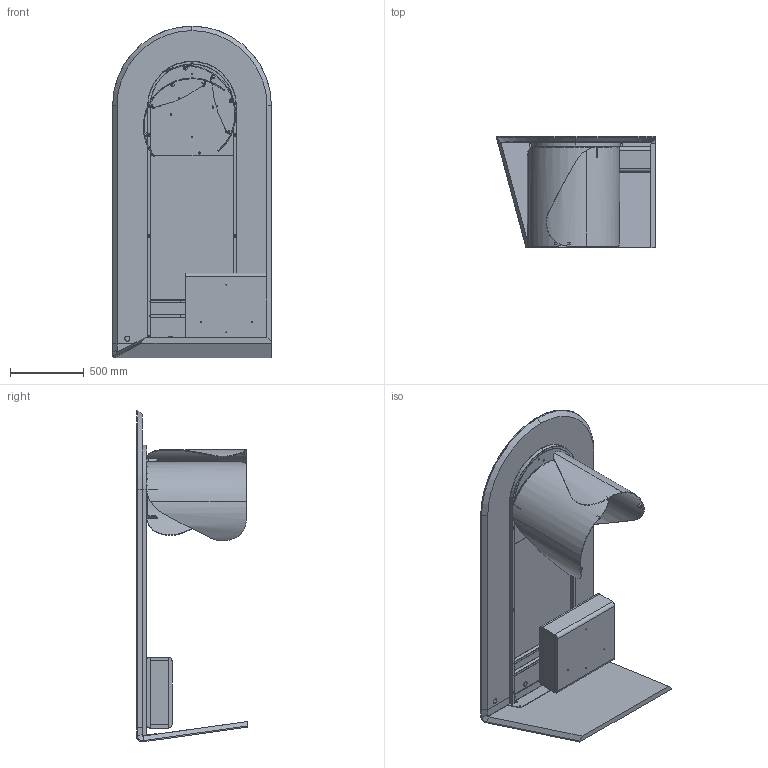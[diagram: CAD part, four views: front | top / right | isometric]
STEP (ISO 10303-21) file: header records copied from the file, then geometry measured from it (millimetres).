
FILE_DESCRIPTION (( 'STEP AP203' ), '1' );
FILE_NAME ('OD70C_Cilindro Desk_225x108x75h_Ceramic.STEP', '2024-08-06T07:09:35', ( '' ), ( '' ), 'SwSTEP 2.0', 'SolidWorks 2022', '' );
FILE_SCHEMA (( 'CONFIG_CONTROL_DESIGN' ));
Length unit declared in the file: millimetre
Products named in the file (15): TTAV09_02-03-Staffa a L supporto telaio; DSK000000STR-00-DESK STRUTTURA IN LEGNO; CAS003-00-Frontalino Cassetto; OND000000-03-ONDA BASE GREZZA; OND000000_02-00-CILINDRO DI FISSAGGIO Ø25X17 M8; TTAV09_03-02-PIASTRA forata per DESK_ver. Onda_Rotolo; CAS001-00-Struttura Cassetto_Default<A macchina>; DSK000000CAS-02-DESK CASSETTO COMPLETO_Variante per desk; K70CMX-00-TOP PER DESK  215X107.6 CERAMICA; OD70C_Cilindro Desk_225x108x75h_Ceramic; OND000000_01-00-PIASTRA SUPERIORE BASE ONDA; OND000000_03-00-LAMIERA CURVATA PRINCIPALE_OND00000X-00-ONDA BASE GREZZA PROTOTIPO; TTAV09_01-04-Struttura tubolare per telaio DESK_Default<A macchina>; TTAV09-04-TELAIO PER SCRIVANIA DESK_conf. Cilindro; Freccia_default specchiata
Assembly tree (16 placements, depth 3):
  OD70C_Cilindro Desk_225x108x75h_Ceramic
    DSK000000STR-00-DESK STRUTTURA IN LEGNO
    K70CMX-00-TOP PER DESK  215X107.6 CERAMICA
    OND000000-03-ONDA BASE GREZZA  x2
      OND000000_03-00-LAMIERA CURVATA PRINCIPALE_OND00000X-00-ONDA BASE GREZZA PROTOTIPO
      OND000000_01-00-PIASTRA SUPERIORE BASE ONDA
      OND000000_02-00-CILINDRO DI FISSAGGIO Ø25X17 M8
    DSK000000CAS-02-DESK CASSETTO COMPLETO_Variante per desk
      CAS001-00-Struttura Cassetto_Default<A macchina>
      CAS003-00-Frontalino Cassetto
    TTAV09-04-TELAIO PER SCRIVANIA DESK_conf. Cilindro
      TTAV09_02-03-Staffa a L supporto telaio
      TTAV09_01-04-Struttura tubolare per telaio DESK_Default<A macchina>
      TTAV09_03-02-PIASTRA forata per DESK_ver. Onda_Rotolo
    Freccia_default specchiata
Bounding box: 1075 x 750 x 2245 mm (x, y, z)
Volume: 135288375.5 mm3; surface area: 16370081.8 mm2
Topology: 23 solids, 23 shells, 747 faces, 1965 edges, 1232 vertices
Faces by surface type: cylinder 361, plane 261, cone 64, bspline 45, torus 16
Entity records: 24698 total; most frequent: CARTESIAN_POINT 6869, DIRECTION 3430, ORIENTED_EDGE 3308, EDGE_CURVE 1654, AXIS2_PLACEMENT_3D 1272, VERTEX_POINT 1070, LINE 886, VECTOR 886
